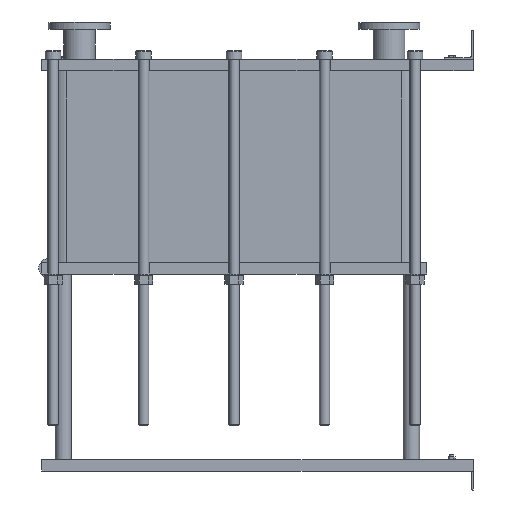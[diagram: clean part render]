
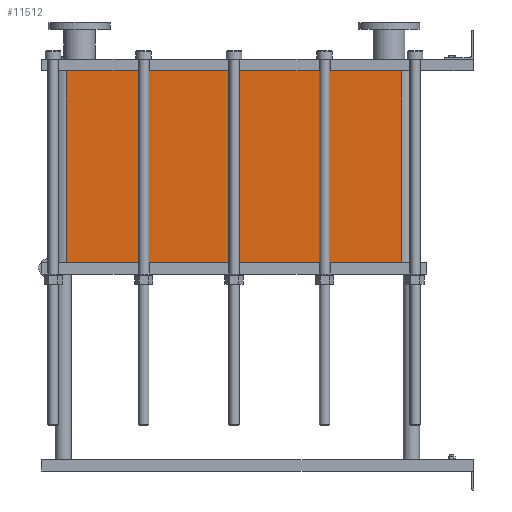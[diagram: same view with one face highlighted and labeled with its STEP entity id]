
A CAD part, left-side view. The second image highlights one B-rep face of the part: STEP entity #11512.
In plain terms, the highlighted planar face has unit normal (-1, 0, 0).
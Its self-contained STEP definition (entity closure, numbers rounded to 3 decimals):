
#1129=LINE('',#23232,#2102);
#1130=LINE('',#23236,#2103);
#1131=LINE('',#23238,#2104);
#1132=LINE('',#23239,#2105);
#2102=VECTOR('',#15887,10.);
#2103=VECTOR('',#15892,10.);
#2104=VECTOR('',#15893,10.);
#2105=VECTOR('',#15894,10.);
#3267=FACE_OUTER_BOUND('',#4093,.T.);
#4093=EDGE_LOOP('',(#10103,#10104,#10105,#10106));
#5642=VERTEX_POINT('',#23229);
#5643=VERTEX_POINT('',#23231);
#5644=VERTEX_POINT('',#23235);
#5645=VERTEX_POINT('',#23237);
#7159=EDGE_CURVE('',#5643,#5642,#1129,.T.);
#7161=EDGE_CURVE('',#5642,#5644,#1130,.T.);
#7162=EDGE_CURVE('',#5645,#5644,#1131,.T.);
#7163=EDGE_CURVE('',#5645,#5643,#1132,.T.);
#10103=ORIENTED_EDGE('',*,*,#7161,.T.);
#10104=ORIENTED_EDGE('',*,*,#7162,.F.);
#10105=ORIENTED_EDGE('',*,*,#7163,.T.);
#10106=ORIENTED_EDGE('',*,*,#7159,.T.);
#10857=PLANE('',#12751);
#11512=ADVANCED_FACE('',(#3267),#10857,.T.);
#12751=AXIS2_PLACEMENT_3D('',#23234,#15890,#15891);
#15887=DIRECTION('',(0.,0.,-1.));
#15890=DIRECTION('center_axis',(-1.,0.,0.));
#15891=DIRECTION('ref_axis',(0.,1.,0.));
#15892=DIRECTION('',(0.,-1.,0.));
#15893=DIRECTION('',(0.,0.,-1.));
#15894=DIRECTION('',(0.,1.,0.));
#23229=CARTESIAN_POINT('',(-200.,1414.,-665.85));
#23231=CARTESIAN_POINT('',(-200.,1414.,0.));
#23232=CARTESIAN_POINT('',(-200.,1414.,0.));
#23234=CARTESIAN_POINT('Origin',(-200.,248.,0.));
#23235=CARTESIAN_POINT('',(-200.,248.,-665.85));
#23236=CARTESIAN_POINT('',(-200.,539.5,-665.85));
#23237=CARTESIAN_POINT('',(-200.,248.,0.));
#23238=CARTESIAN_POINT('',(-200.,248.,0.));
#23239=CARTESIAN_POINT('',(-200.,248.,0.));
